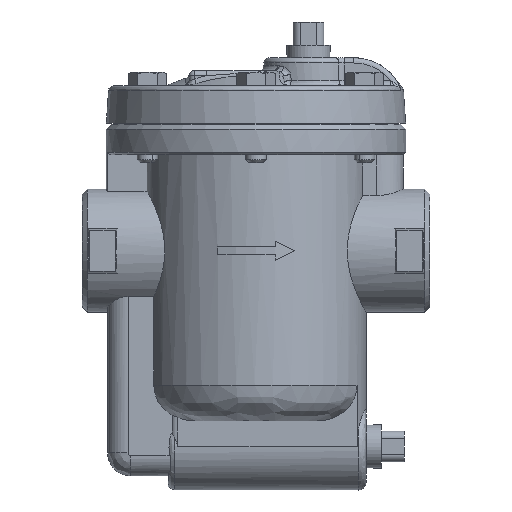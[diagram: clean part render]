
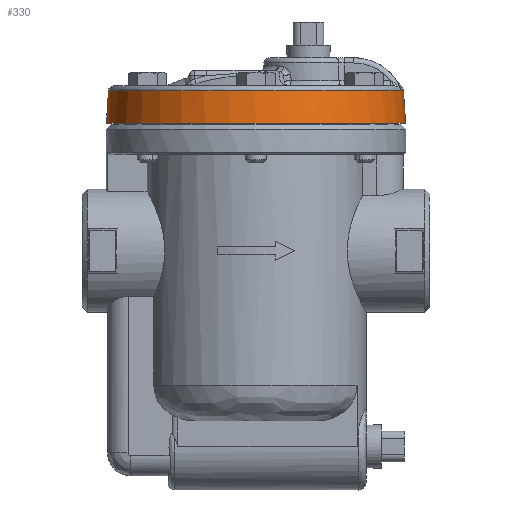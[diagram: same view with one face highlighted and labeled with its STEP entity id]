
A CAD part, front view. The second image highlights one B-rep face of the part: STEP entity #330.
In plain terms, the highlighted free-form (B-spline) face has degree [2, 1] with [5, 2] control points.
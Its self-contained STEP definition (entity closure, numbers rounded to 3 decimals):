
#330=ADVANCED_FACE('',(#1405),#1404,.T.);
#1404=( BOUNDED_SURFACE() B_SPLINE_SURFACE( 2,1,((#4624,#4625),(#4626,#4627),(#4628,#4629),(#4630,#4631),(#4632,#4633)), .UNSPECIFIED.,.F.,.F.,.F.) B_SPLINE_SURFACE_WITH_KNOTS((3,2,3),(2,2),(0.,0.5,1.),(0.,1.), .UNSPECIFIED. ) GEOMETRIC_REPRESENTATION_ITEM() RATIONAL_B_SPLINE_SURFACE(((1.,1.),(0.707,0.707),(1.,1.),(0.707,0.707),(1.,1.))) REPRESENTATION_ITEM('') SURFACE() );
#1405=FACE_OUTER_BOUND('',#4634,.T.);
#4624=CARTESIAN_POINT('',(-57.583,0.,0.798));
#4625=CARTESIAN_POINT('',(-58.5,0.,-12.5));
#4626=CARTESIAN_POINT('',(-57.583,57.583,0.798));
#4627=CARTESIAN_POINT('',(-58.5,58.5,-12.5));
#4628=CARTESIAN_POINT('',(0.,57.583,0.798));
#4629=CARTESIAN_POINT('',(0.,58.5,-12.5));
#4630=CARTESIAN_POINT('',(57.583,57.583,0.798));
#4631=CARTESIAN_POINT('',(58.5,58.5,-12.5));
#4632=CARTESIAN_POINT('',(57.583,0.,0.798));
#4633=CARTESIAN_POINT('',(58.5,0.,-12.5));
#4634=EDGE_LOOP('',(#6372,#6373,#6374,#6375,#6376,#6377,#6378));
#6372=ORIENTED_EDGE('',*,*,#7191,.T.);
#6373=ORIENTED_EDGE('',*,*,#7269,.T.);
#6374=ORIENTED_EDGE('',*,*,#7292,.T.);
#6375=ORIENTED_EDGE('',*,*,#7369,.T.);
#6376=ORIENTED_EDGE('',*,*,#7384,.T.);
#6377=ORIENTED_EDGE('',*,*,#7329,.F.);
#6378=ORIENTED_EDGE('',*,*,#7385,.F.);
#7191=EDGE_CURVE('',#8097,#8098,#8099,.T.);
#7269=EDGE_CURVE('',#8098,#8601,#8608,.T.);
#7292=EDGE_CURVE('',#8601,#8758,#8759,.T.);
#7329=EDGE_CURVE('',#9007,#9008,#9009,.T.);
#7369=EDGE_CURVE('',#8758,#9265,#9272,.T.);
#7384=EDGE_CURVE('',#9265,#9008,#9365,.T.);
#7385=EDGE_CURVE('',#8097,#9007,#9371,.T.);
#8097=VERTEX_POINT('',#12146);
#8098=VERTEX_POINT('',#12147);
#8099=CIRCLE('',#12151,57.583);
#8601=VERTEX_POINT('',#12603);
#8608=(BOUNDED_CURVE() B_SPLINE_CURVE(3,(#12616,#12617,#12618,#12619),.UNSPECIFIED.,.F.,.F.) B_SPLINE_CURVE_WITH_KNOTS((4,4),(0.,0.001),.UNSPECIFIED.) CURVE() GEOMETRIC_REPRESENTATION_ITEM() RATIONAL_B_SPLINE_CURVE((1.,1.,1.,1.)) REPRESENTATION_ITEM('') );
#8758=VERTEX_POINT('',#12740);
#8759=(BOUNDED_CURVE() B_SPLINE_CURVE(3,(#12741,#12742,#12743,#12744,#12745,#12746),.UNSPECIFIED.,.F.,.F.) B_SPLINE_CURVE_WITH_KNOTS((4,2,4),(0.,0.001,0.001),.UNSPECIFIED.) CURVE() GEOMETRIC_REPRESENTATION_ITEM() RATIONAL_B_SPLINE_CURVE((1.,1.,1.,1.,1.,1.)) REPRESENTATION_ITEM('') );
#9007=VERTEX_POINT('',#12957);
#9008=VERTEX_POINT('',#12958);
#9009=CIRCLE('',#12962,58.5);
#9265=VERTEX_POINT('',#13171);
#9272=CIRCLE('',#13179,57.628);
#9365=(BOUNDED_CURVE() B_SPLINE_CURVE(1,(#13251,#13252),.UNSPECIFIED.,.F.,.F.) B_SPLINE_CURVE_WITH_KNOTS((2,2),(0.05,1.),.UNSPECIFIED.) CURVE() GEOMETRIC_REPRESENTATION_ITEM() RATIONAL_B_SPLINE_CURVE((1.,1.)) REPRESENTATION_ITEM('') );
#9371=(BOUNDED_CURVE() B_SPLINE_CURVE(1,(#13253,#13254),.UNSPECIFIED.,.F.,.F.) B_SPLINE_CURVE_WITH_KNOTS((2,2),(0.,1.),.UNSPECIFIED.) CURVE() GEOMETRIC_REPRESENTATION_ITEM() RATIONAL_B_SPLINE_CURVE((0.75,0.75)) REPRESENTATION_ITEM('') );
#12146=CARTESIAN_POINT('',(-57.583,0.,0.798));
#12147=CARTESIAN_POINT('',(-56.648,10.333,0.798));
#12148=CARTESIAN_POINT('',(0.,0.,0.798));
#12149=DIRECTION('',(0.,0.,-1.));
#12150=DIRECTION('',(1.,0.,0.));
#12151=AXIS2_PLACEMENT_3D('',#12148,#12149,#12150);
#12603=CARTESIAN_POINT('',(-56.574,10.801,0.61));
#12616=CARTESIAN_POINT('',(-56.648,10.333,0.798));
#12617=CARTESIAN_POINT('',(-56.617,10.505,0.798));
#12618=CARTESIAN_POINT('',(-56.591,10.669,0.721));
#12619=CARTESIAN_POINT('',(-56.574,10.801,0.61));
#12740=CARTESIAN_POINT('',(-56.432,11.682,0.138));
#12741=CARTESIAN_POINT('',(-56.574,10.801,0.61));
#12742=CARTESIAN_POINT('',(-56.557,10.931,0.499));
#12743=CARTESIAN_POINT('',(-56.535,11.075,0.414));
#12744=CARTESIAN_POINT('',(-56.486,11.373,0.265));
#12745=CARTESIAN_POINT('',(-56.46,11.528,0.2));
#12746=CARTESIAN_POINT('',(-56.432,11.682,0.138));
#12957=CARTESIAN_POINT('',(-58.5,0.,-12.5));
#12958=CARTESIAN_POINT('',(58.5,0.,-12.5));
#12959=CARTESIAN_POINT('',(0.,0.,-12.5));
#12960=DIRECTION('',(0.,0.,-1.));
#12961=DIRECTION('',(-1.,0.,0.));
#12962=AXIS2_PLACEMENT_3D('',#12959,#12960,#12961);
#13171=CARTESIAN_POINT('',(57.628,0.,0.138));
#13176=CARTESIAN_POINT('',(0.,0.,0.138));
#13177=DIRECTION('',(0.,0.,-1.));
#13178=DIRECTION('',(-0.979,0.203,0.));
#13179=AXIS2_PLACEMENT_3D('',#13176,#13177,#13178);
#13251=CARTESIAN_POINT('',(57.628,0.,0.138));
#13252=CARTESIAN_POINT('',(58.5,0.,-12.5));
#13253=CARTESIAN_POINT('',(-57.583,0.,0.798));
#13254=CARTESIAN_POINT('',(-58.5,0.,-12.5));
